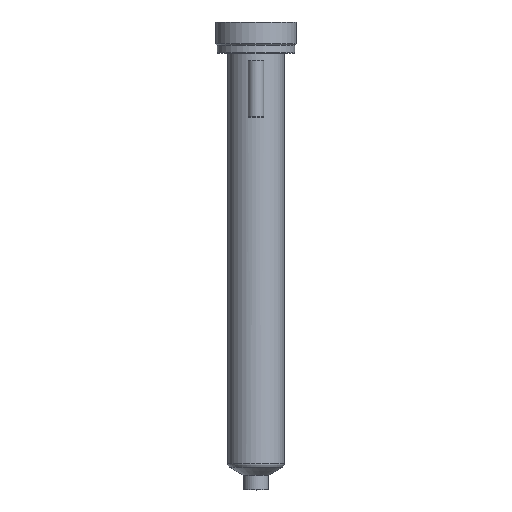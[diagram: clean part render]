
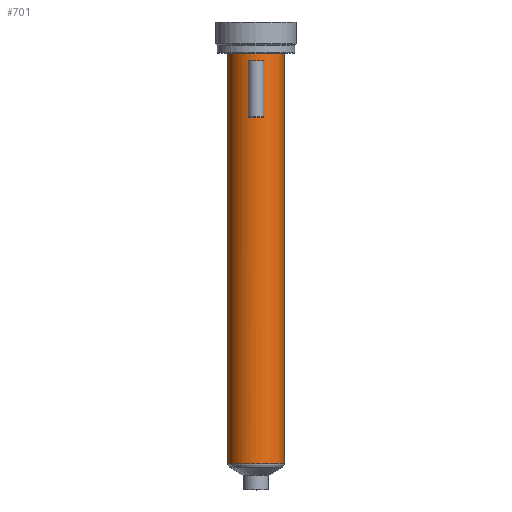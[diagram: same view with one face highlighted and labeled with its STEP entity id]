
A CAD part, top view. The second image highlights one B-rep face of the part: STEP entity #701.
In plain terms, the highlighted cylindrical face has radius 9 mm (diameter 18 mm), a partial arc.
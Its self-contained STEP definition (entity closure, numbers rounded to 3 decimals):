
#193=DIRECTION('',(0.,-1.,0.));
#194=VECTOR('',#193,131.544);
#195=CARTESIAN_POINT('',(9.,0.,0.));
#196=LINE('',#195,#194);
#197=CARTESIAN_POINT('',(0.,-131.544,0.));
#198=DIRECTION('',(0.,1.,0.));
#199=DIRECTION('',(-1.,0.,0.));
#200=AXIS2_PLACEMENT_3D('',#197,#198,#199);
#202=DIRECTION('',(0.,1.,0.));
#203=VECTOR('',#202,131.544);
#204=CARTESIAN_POINT('',(-9.,-131.544,0.));
#205=LINE('',#204,#203);
#206=CARTESIAN_POINT('',(0.,0.,0.));
#207=DIRECTION('',(0.,1.,0.));
#208=DIRECTION('',(-1.,0.,0.));
#209=AXIS2_PLACEMENT_3D('',#206,#207,#208);
#211=DIRECTION('',(0.,-1.,0.));
#212=VECTOR('',#211,18.);
#213=CARTESIAN_POINT('',(-2.5,-2.5,8.646));
#214=LINE('',#213,#212);
#215=DIRECTION('',(0.,1.,0.));
#216=VECTOR('',#215,18.);
#217=CARTESIAN_POINT('',(2.5,-20.5,8.646));
#218=LINE('',#217,#216);
#299=CARTESIAN_POINT('',(0.,-2.5,0.));
#300=DIRECTION('',(0.,-1.,0.));
#301=DIRECTION('',(0.278,0.,0.961));
#302=AXIS2_PLACEMENT_3D('',#299,#300,#301);
#317=CARTESIAN_POINT('',(0.,-20.5,0.));
#318=DIRECTION('',(0.,1.,0.));
#319=DIRECTION('',(-0.278,0.,0.961));
#320=AXIS2_PLACEMENT_3D('',#317,#318,#319);
#396=CARTESIAN_POINT('',(-9.,0.,0.));
#397=CARTESIAN_POINT('',(9.,0.,0.));
#398=VERTEX_POINT('',#396);
#399=VERTEX_POINT('',#397);
#408=CARTESIAN_POINT('',(-2.5,-2.5,8.646));
#409=VERTEX_POINT('',#408);
#410=CARTESIAN_POINT('',(2.5,-2.5,8.646));
#411=VERTEX_POINT('',#410);
#448=CARTESIAN_POINT('',(9.,-131.544,0.));
#449=VERTEX_POINT('',#448);
#458=CARTESIAN_POINT('',(-9.,-131.544,0.));
#459=VERTEX_POINT('',#458);
#460=CARTESIAN_POINT('',(-2.5,-20.5,8.646));
#461=CARTESIAN_POINT('',(2.5,-20.5,8.646));
#462=VERTEX_POINT('',#460);
#463=VERTEX_POINT('',#461);
#679=CARTESIAN_POINT('',(0.,11.15,0.));
#680=DIRECTION('',(0.,-1.,0.));
#681=DIRECTION('',(-1.,0.,0.));
#682=AXIS2_PLACEMENT_3D('',#679,#680,#681);
#683=CYLINDRICAL_SURFACE('',#682,9.);
#684=ORIENTED_EDGE('',*,*,#673,.T.);
#686=ORIENTED_EDGE('',*,*,#685,.F.);
#687=ORIENTED_EDGE('',*,*,#669,.T.);
#688=ORIENTED_EDGE('',*,*,#659,.T.);
#689=EDGE_LOOP('',(#684,#686,#687,#688));
#690=FACE_OUTER_BOUND('',#689,.F.);
#692=ORIENTED_EDGE('',*,*,#691,.T.);
#694=ORIENTED_EDGE('',*,*,#693,.T.);
#696=ORIENTED_EDGE('',*,*,#695,.T.);
#698=ORIENTED_EDGE('',*,*,#697,.T.);
#699=EDGE_LOOP('',(#692,#694,#696,#698));
#700=FACE_BOUND('',#699,.F.);
#701=ADVANCED_FACE('',(#690,#700),#683,.T.);
#201=CIRCLE('',#200,9.);
#210=CIRCLE('',#209,9.);
#303=CIRCLE('',#302,9.);
#321=CIRCLE('',#320,9.);
#659=EDGE_CURVE('',#398,#399,#210,.T.);
#669=EDGE_CURVE('',#459,#398,#205,.T.);
#673=EDGE_CURVE('',#399,#449,#196,.T.);
#685=EDGE_CURVE('',#459,#449,#201,.T.);
#691=EDGE_CURVE('',#409,#462,#214,.T.);
#693=EDGE_CURVE('',#462,#463,#321,.T.);
#695=EDGE_CURVE('',#463,#411,#218,.T.);
#697=EDGE_CURVE('',#411,#409,#303,.T.);
